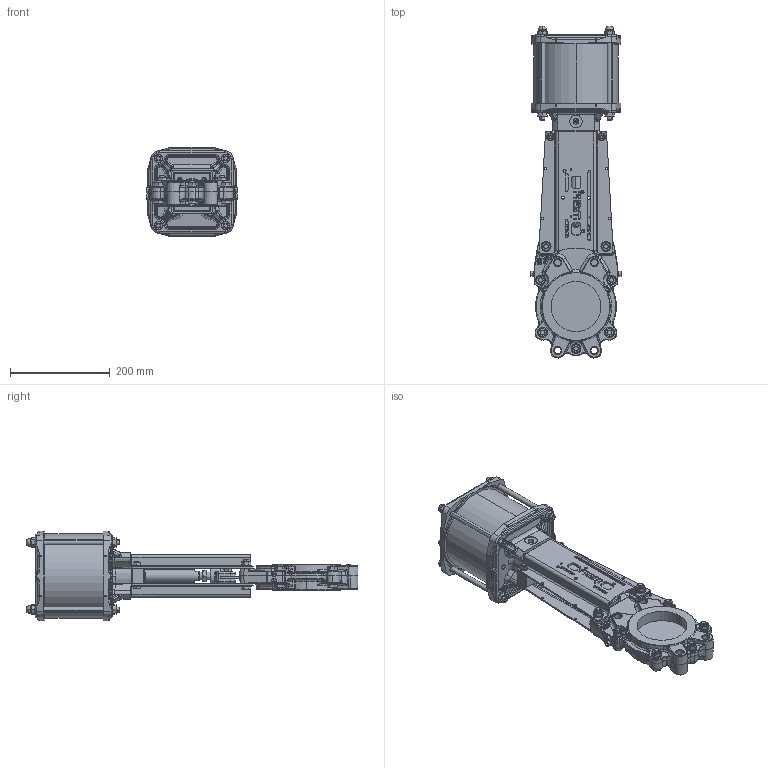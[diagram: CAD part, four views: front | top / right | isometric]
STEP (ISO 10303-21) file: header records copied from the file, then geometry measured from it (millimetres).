
FILE_DESCRIPTION (( 'STEP AP214' ), '1' );
FILE_NAME ('VSC DN 0100 Zyl.-Reihe 2.STEP', '2015-09-23T11:04:31', ( 'admin' ), ( 'Hewlett-Packard Company' ), 'SwSTEP 2.0', 'SolidWorks 2013', '' );
FILE_SCHEMA (( 'AUTOMOTIVE_DESIGN' ));
Length unit declared in the file: millimetre
Products named in the file (1): VSC DN 0100 Zyl.-Reihe 2
Bounding box: 182 x 664.46 x 180 mm (x, y, z)
Volume: 3057996.9 mm3; surface area: 734132.5 mm2
Topology: 65 solids, 72 shells, 3584 faces, 8700 edges, 5184 vertices
Faces by surface type: plane 1108, cylinder 968, bspline 626, cone 609, torus 221, sphere 52
Entity records: 168482 total; most frequent: CARTESIAN_POINT 49549, ORIENTED_EDGE 17080, DIRECTION 15693, EDGE_CURVE 8540, AXIS2_PLACEMENT_3D 6236, VERTEX_POINT 5176, EDGE_LOOP 3896, UNCERTAINTY_MEASURE_WITH_UNIT 3651
